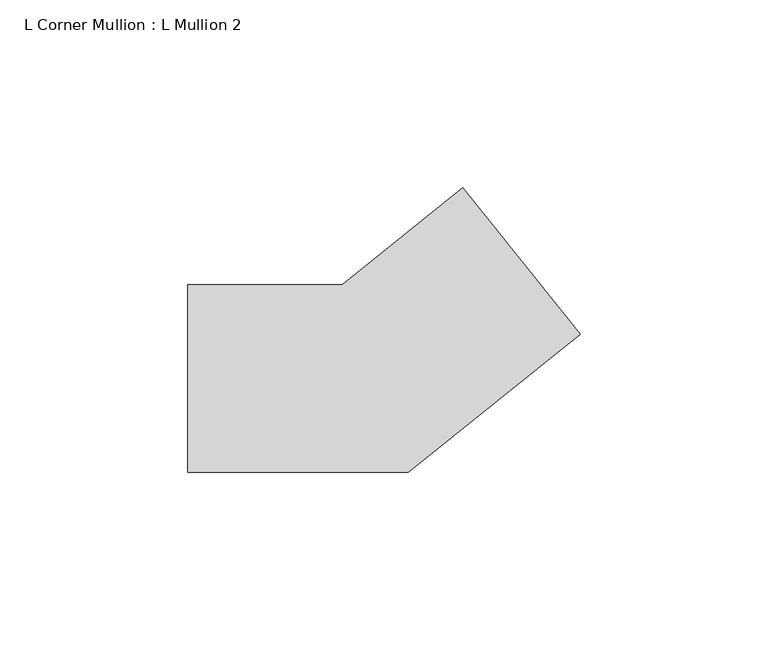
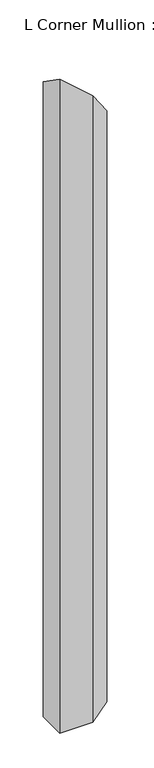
"""IFC4 building model written with IfcOpenShell, lengths in millimetres: member geometry, L Corner Mullion : L Mullion 2."""

from ifc_helpers import new_model, si_unit, origin, place, context, project, spatial, faceted_brep, source, transform, mapped, element, save


def l_corner_mullion_l_mullion_2_d6e3f4b6(model_context):
    return source(origin(), model_context, "Body", "Brep", [
        faceted_brep([(23.322768, 50.8040204, -56.6285025), (54.6368772, 11.8241978, -56.6285025), (54.6368772, 11.8241978, -1163.3665269), (23.322768, 50.8040204, -1163.3665269), (-8.7980927, 25.0, -9.9644563), (-8.7980927, 25.0, -1163.3665269), (-50.0, 25.0, 26.4146686), (-50.0, 25.0, -1163.3665269), (-50.0, -25.0, 61.8800907), (-50.0, -25.0, -1163.3665269), (8.7980927, -25.0, 9.9644563), (8.7980927, -25.0, -1163.3665269)], [[[0, 1, 2, 3]], [[4, 0, 3, 5]], [[6, 4, 5, 7]], [[8, 6, 7, 9]], [[10, 8, 9, 11]], [[1, 10, 11, 2]], [[1, 0, 4, 6, 8, 10]], [[2, 11, 9, 7, 5, 3]]]),
    ])


if __name__ == "__main__":
    model = new_model("IFC4")
    model_context = context("Model", 3, world=origin())
    ifc_project = project(units=[si_unit("LENGTHUNIT", "METRE", prefix="MILLI")], contexts=[model_context])
    site = spatial("IfcSite", under=ifc_project)
    building = spatial("IfcBuilding", under=site)
    placement = place(None, origin())
    l_corner_mullion_l_mullion_2_shape = l_corner_mullion_l_mullion_2_d6e3f4b6(model_context)
    element("IfcMember", 1, ObjectType="L Corner Mullion : L Mullion 2", at=placement, inside=building, context=model_context, shape_type="MappedRepresentation", body=[
        mapped(l_corner_mullion_l_mullion_2_shape, transform((0.0, 0.0, 0.0), x_axis=(1.0, 0.0, 0.0), y_axis=(0.0, 1.0, 0.0), z_axis=(0.0, 0.0, 1.0))),
    ])
    save(model, "model.ifc")
